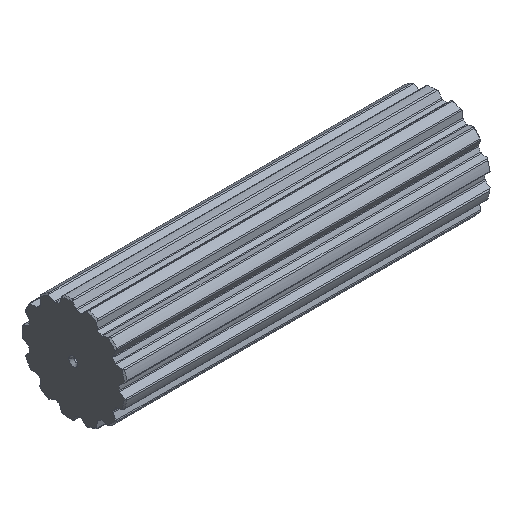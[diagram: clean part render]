
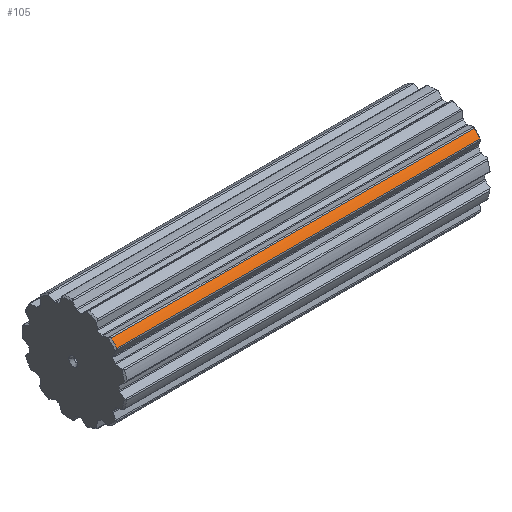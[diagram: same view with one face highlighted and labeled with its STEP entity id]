
A CAD part, isometric view. The second image highlights one B-rep face of the part: STEP entity #105.
In plain terms, the highlighted cylindrical face has radius 20.19 mm (diameter 40.38 mm), a partial arc.
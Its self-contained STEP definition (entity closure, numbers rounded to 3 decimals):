
#105=ADVANCED_FACE('',(#282),#283,.T.);
#282=FACE_OUTER_BOUND('',#576,.T.);
#283=CYLINDRICAL_SURFACE('',#577,20.19);
#576=EDGE_LOOP('',(#1045,#1046,#1047,#1048));
#577=AXIS2_PLACEMENT_3D('',#1049,#1050,#1051);
#1045=ORIENTED_EDGE('',*,*,#2191,.T.);
#1046=ORIENTED_EDGE('',*,*,#2207,.T.);
#1047=ORIENTED_EDGE('',*,*,#2208,.T.);
#1048=ORIENTED_EDGE('',*,*,#2209,.T.);
#1049=CARTESIAN_POINT('',(70.0,0.0,0.0));
#1050=DIRECTION('',(1.0,0.0,-0.0));
#1051=DIRECTION('',(0.0,0.663,0.749));
#2191=EDGE_CURVE('',#2693,#2702,#2704,.T.);
#2207=EDGE_CURVE('',#2702,#2732,#2733,.T.);
#2208=EDGE_CURVE('',#2732,#2734,#2735,.T.);
#2209=EDGE_CURVE('',#2734,#2693,#2736,.T.);
#2693=VERTEX_POINT('',#3773);
#2702=VERTEX_POINT('',#3807);
#2704=CIRCLE('',#3816,20.19);
#2732=VERTEX_POINT('',#3898);
#2733=LINE('',#3899,#3900);
#2734=VERTEX_POINT('',#3901);
#2735=CIRCLE('',#3902,20.19);
#2736=LINE('',#3903,#3904);
#3773=CARTESIAN_POINT('',(0.5,-13.956,14.59));
#3807=CARTESIAN_POINT('',(0.5,-16.166,12.096));
#3816=AXIS2_PLACEMENT_3D('',#5037,#5038,#5039);
#3898=CARTESIAN_POINT('',(139.5,-16.166,12.096));
#3899=CARTESIAN_POINT('',(70.0,-16.166,12.096));
#3900=VECTOR('',#5055,1.0);
#3901=CARTESIAN_POINT('',(139.5,-13.956,14.59));
#3902=AXIS2_PLACEMENT_3D('',#5056,#5057,#5058);
#3903=CARTESIAN_POINT('',(70.0,-13.956,14.59));
#3904=VECTOR('',#5059,1.0);
#5037=CARTESIAN_POINT('',(0.5,0.0,0.0));
#5038=DIRECTION('',(1.0,0.0,0.));
#5039=DIRECTION('',(0.,0.663,0.749));
#5055=DIRECTION('',(1.0,0.0,0.0));
#5056=CARTESIAN_POINT('',(139.5,0.0,0.0));
#5057=DIRECTION('',(-1.0,0.0,0.0));
#5058=DIRECTION('',(0.0,0.663,0.749));
#5059=DIRECTION('',(-1.0,0.0,0.0));
